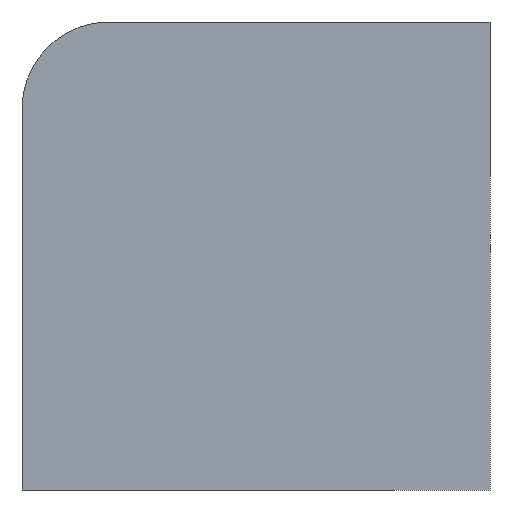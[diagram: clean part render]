
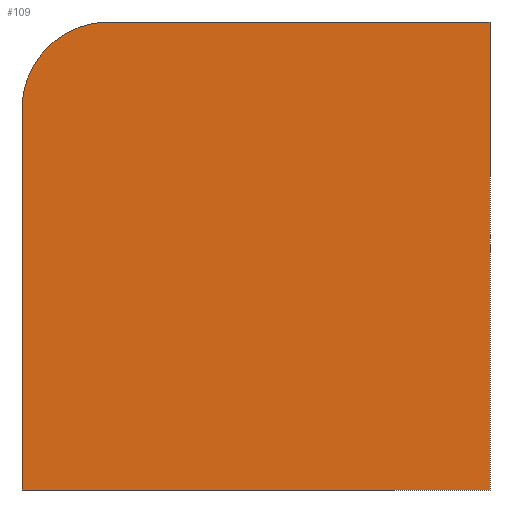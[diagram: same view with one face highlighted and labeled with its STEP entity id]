
A CAD part, left-side view. The second image highlights one B-rep face of the part: STEP entity #109.
In plain terms, the highlighted planar face has unit normal (-1, 0, 0).
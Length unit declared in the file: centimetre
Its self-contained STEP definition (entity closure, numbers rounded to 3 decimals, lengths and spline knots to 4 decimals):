
#34 = ORIENTED_EDGE ( 'NONE', *, *, #251, .F. ) ;
#43 = EDGE_CURVE ( 'NONE', #927, #680, #967, .T. ) ;
#81 = VERTEX_POINT ( 'NONE', #1104 ) ;
#109 = ADVANCED_FACE ( 'NONE', ( #615 ), #1034, .F. ) ;
#144 = ORIENTED_EDGE ( 'NONE', *, *, #43, .T. ) ;
#148 = EDGE_CURVE ( 'NONE', #81, #1054, #609, .T. ) ;
#182 = AXIS2_PLACEMENT_3D ( 'NONE', #1087, #546, #810 ) ;
#189 = CARTESIAN_POINT ( 'NONE',  ( 0., 1000., 1000. ) ) ;
#192 = EDGE_LOOP ( 'NONE', ( #34, #881, #144, #1374, #1072 ) ) ;
#193 = CARTESIAN_POINT ( 'NONE',  ( 0., 0., 1000. ) ) ;
#251 = EDGE_CURVE ( 'NONE', #522, #81, #1423, .T. ) ;
#263 = CARTESIAN_POINT ( 'NONE',  ( 0., 1000., 0. ) ) ;
#271 = AXIS2_PLACEMENT_3D ( 'NONE', #189, #944, #1392 ) ;
#360 = VECTOR ( 'NONE', #1302, 100. ) ;
#380 = CARTESIAN_POINT ( 'NONE',  ( 0., 1000., 814.608 ) ) ;
#393 = LINE ( 'NONE', #857, #521 ) ;
#416 = CARTESIAN_POINT ( 'NONE',  ( 0., 1000., 1000. ) ) ;
#521 = VECTOR ( 'NONE', #938, 100. ) ;
#522 = VERTEX_POINT ( 'NONE', #1393 ) ;
#528 = EDGE_CURVE ( 'NONE', #680, #1054, #393, .T. ) ;
#546 = DIRECTION ( 'NONE',  ( -1., 0., 0. ) ) ;
#609 = LINE ( 'NONE', #193, #1236 ) ;
#615 = FACE_OUTER_BOUND ( 'NONE', #192, .T. ) ;
#621 = DIRECTION ( 'NONE',  ( 0., 0., -1. ) ) ;
#655 = CARTESIAN_POINT ( 'NONE',  ( 0., 1000., 1000. ) ) ;
#658 = EDGE_CURVE ( 'NONE', #522, #927, #803, .T. ) ;
#680 = VERTEX_POINT ( 'NONE', #263 ) ;
#803 = CIRCLE ( 'NONE', #182, 185.392 ) ;
#810 = DIRECTION ( 'NONE',  ( 0., 0., -1. ) ) ;
#835 = CARTESIAN_POINT ( 'NONE',  ( 0., 0., 0. ) ) ;
#857 = CARTESIAN_POINT ( 'NONE',  ( 0., 1000., 0. ) ) ;
#881 = ORIENTED_EDGE ( 'NONE', *, *, #658, .T. ) ;
#927 = VERTEX_POINT ( 'NONE', #380 ) ;
#938 = DIRECTION ( 'NONE',  ( 0., -1., 0. ) ) ;
#944 = DIRECTION ( 'NONE',  ( 1., 0., 0. ) ) ;
#967 = LINE ( 'NONE', #416, #360 ) ;
#1034 = PLANE ( 'NONE',  #271 ) ;
#1054 = VERTEX_POINT ( 'NONE', #835 ) ;
#1072 = ORIENTED_EDGE ( 'NONE', *, *, #148, .F. ) ;
#1087 = CARTESIAN_POINT ( 'NONE',  ( 0., 814.608, 814.608 ) ) ;
#1104 = CARTESIAN_POINT ( 'NONE',  ( 0., 0., 1000. ) ) ;
#1236 = VECTOR ( 'NONE', #621, 100. ) ;
#1278 = VECTOR ( 'NONE', #1322, 100. ) ;
#1302 = DIRECTION ( 'NONE',  ( 0., 0., -1. ) ) ;
#1322 = DIRECTION ( 'NONE',  ( 0., -1., 0. ) ) ;
#1374 = ORIENTED_EDGE ( 'NONE', *, *, #528, .T. ) ;
#1392 = DIRECTION ( 'NONE',  ( 0., 0., -1. ) ) ;
#1393 = CARTESIAN_POINT ( 'NONE',  ( 0., 814.608, 1000. ) ) ;
#1423 = LINE ( 'NONE', #655, #1278 ) ;
